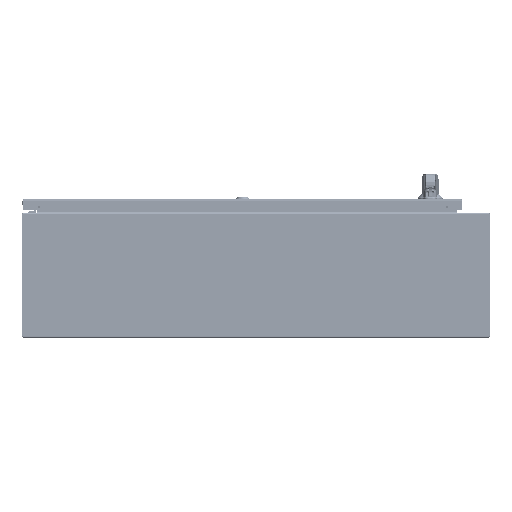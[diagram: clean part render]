
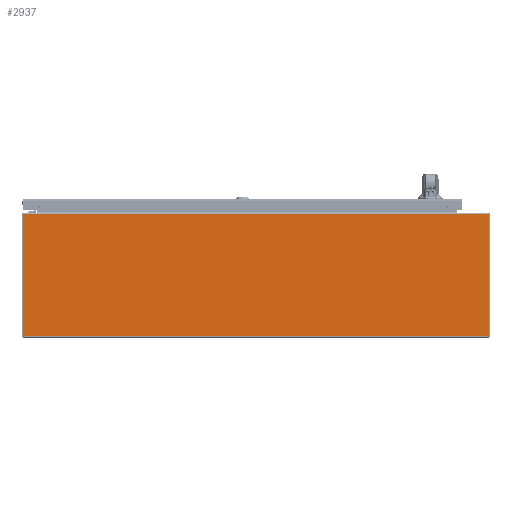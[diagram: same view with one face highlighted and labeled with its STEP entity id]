
A CAD part, left-side view. The second image highlights one B-rep face of the part: STEP entity #2937.
In plain terms, the highlighted planar face has unit normal (-1, 0, 0).
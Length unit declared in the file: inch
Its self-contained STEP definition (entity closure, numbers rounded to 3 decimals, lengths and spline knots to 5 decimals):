
#645=DIRECTION('',(0.,1.,0.));
#646=VECTOR('',#645,37.225);
#647=CARTESIAN_POINT('',(-24.,-18.6125,-4.864));
#648=LINE('',#647,#646);
#796=DIRECTION('',(0.,0.,-1.));
#797=VECTOR('',#796,9.747);
#798=CARTESIAN_POINT('',(-24.,-18.6125,4.883));
#799=LINE('',#798,#797);
#810=DIRECTION('',(0.,1.,0.));
#811=VECTOR('',#810,37.225);
#812=CARTESIAN_POINT('',(-24.,-18.6125,4.883));
#813=LINE('',#812,#811);
#854=DIRECTION('',(0.,0.,-1.));
#855=VECTOR('',#854,9.747);
#856=CARTESIAN_POINT('',(-24.,18.6125,4.883));
#857=LINE('',#856,#855);
#2049=CARTESIAN_POINT('',(-24.,-18.6125,4.883));
#2050=CARTESIAN_POINT('',(-24.,18.6125,4.883));
#2051=VERTEX_POINT('',#2049);
#2052=VERTEX_POINT('',#2050);
#2061=CARTESIAN_POINT('',(-24.,-18.6125,-4.864));
#2062=CARTESIAN_POINT('',(-24.,18.6125,-4.864));
#2063=VERTEX_POINT('',#2061);
#2064=VERTEX_POINT('',#2062);
#2925=CARTESIAN_POINT('',(-24.,-18.6125,5.));
#2926=DIRECTION('',(-1.,0.,0.));
#2927=DIRECTION('',(0.,0.,-1.));
#2928=AXIS2_PLACEMENT_3D('',#2925,#2926,#2927);
#2929=PLANE('',#2928);
#2930=ORIENTED_EDGE('',*,*,#2890,.T.);
#2931=ORIENTED_EDGE('',*,*,#2783,.T.);
#2933=ORIENTED_EDGE('',*,*,#2932,.F.);
#2934=ORIENTED_EDGE('',*,*,#2915,.F.);
#2935=EDGE_LOOP('',(#2930,#2931,#2933,#2934));
#2936=FACE_OUTER_BOUND('',#2935,.F.);
#2783=EDGE_CURVE('',#2063,#2064,#648,.T.);
#2890=EDGE_CURVE('',#2051,#2063,#799,.T.);
#2915=EDGE_CURVE('',#2051,#2052,#813,.T.);
#2932=EDGE_CURVE('',#2052,#2064,#857,.T.);
#2937=ADVANCED_FACE('',(#2936),#2929,.T.);
